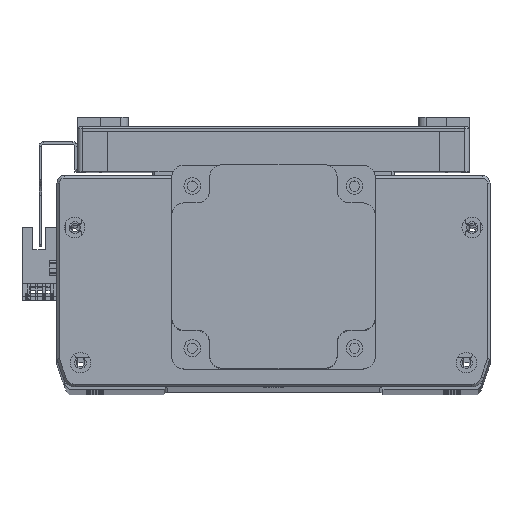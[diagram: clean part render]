
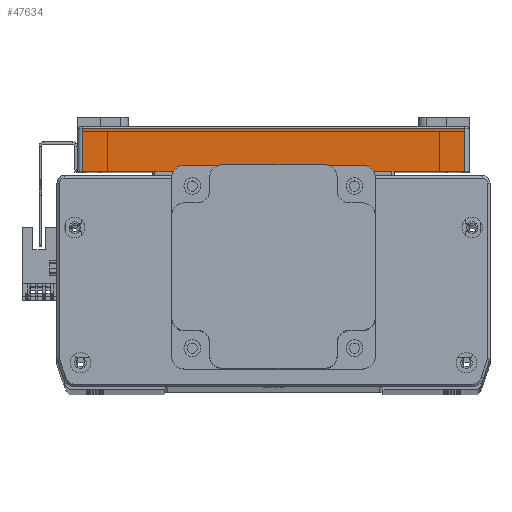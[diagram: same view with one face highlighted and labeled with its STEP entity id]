
A CAD part, top view. The second image highlights one B-rep face of the part: STEP entity #47634.
In plain terms, the highlighted planar face has unit normal (0, 0, 1) as drawn and (-1, 0, 0) by its records, which use the part's own axes.
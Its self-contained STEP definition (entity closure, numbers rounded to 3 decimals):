
#783 = EDGE_LOOP ( 'NONE', ( #21685, #21513, #21555, #21696 ) ) ;
#7737 = FACE_OUTER_BOUND ( 'NONE', #783, .T. ) ;
#19426 = CARTESIAN_POINT ( 'NONE',  ( -115., 17., -75. ) ) ;
#19437 = CARTESIAN_POINT ( 'NONE',  ( -115., 0., 75. ) ) ;
#19445 = CARTESIAN_POINT ( 'NONE',  ( -115., 17., 75. ) ) ;
#19524 = CARTESIAN_POINT ( 'NONE',  ( -115., 0., -75. ) ) ;
#21513 = ORIENTED_EDGE ( 'NONE', *, *, #27332, .T. ) ;
#21555 = ORIENTED_EDGE ( 'NONE', *, *, #27326, .T. ) ;
#21685 = ORIENTED_EDGE ( 'NONE', *, *, #27250, .T. ) ;
#21696 = ORIENTED_EDGE ( 'NONE', *, *, #27246, .T. ) ;
#27246 = EDGE_CURVE ( 'NONE', #32955, #32928, #42793, .T. ) ;
#27250 = EDGE_CURVE ( 'NONE', #32928, #32918, #42791, .T. ) ;
#27326 = EDGE_CURVE ( 'NONE', #32922, #32955, #43102, .T. ) ;
#27332 = EDGE_CURVE ( 'NONE', #32918, #32922, #43219, .T. ) ;
#32918 = VERTEX_POINT ( 'NONE', #19445 ) ;
#32922 = VERTEX_POINT ( 'NONE', #19426 ) ;
#32928 = VERTEX_POINT ( 'NONE', #19437 ) ;
#32955 = VERTEX_POINT ( 'NONE', #19524 ) ;
#37766 = CARTESIAN_POINT ( 'NONE',  ( -115., 18., 75. ) ) ;
#37768 = DIRECTION ( 'NONE',  ( 0., 1., 0. ) ) ;
#37810 = DIRECTION ( 'NONE',  ( 0., 0., 1. ) ) ;
#37830 = CARTESIAN_POINT ( 'NONE',  ( -115., 0., -77. ) ) ;
#38159 = DIRECTION ( 'NONE',  ( 0., 0., -1. ) ) ;
#38189 = DIRECTION ( 'NONE',  ( 0., -1., 0. ) ) ;
#38197 = CARTESIAN_POINT ( 'NONE',  ( -115., 18., -75. ) ) ;
#38229 = CARTESIAN_POINT ( 'NONE',  ( -115., 17., -75. ) ) ;
#41152 = AXIS2_PLACEMENT_3D ( 'NONE', #64043, #64046, #64077 ) ;
#42791 = LINE ( 'NONE', #37766, #42836 ) ;
#42793 = LINE ( 'NONE', #37830, #42842 ) ;
#42836 = VECTOR ( 'NONE', #37768, 1000. ) ;
#42842 = VECTOR ( 'NONE', #37810, 1000. ) ;
#43102 = LINE ( 'NONE', #38197, #43116 ) ;
#43116 = VECTOR ( 'NONE', #38189, 1000. ) ;
#43215 = VECTOR ( 'NONE', #38159, 1000. ) ;
#43219 = LINE ( 'NONE', #38229, #43215 ) ;
#47634 = ADVANCED_FACE ( 'NONE', ( #7737 ), #63993, .F. ) ;
#63993 = PLANE ( 'NONE',  #41152 ) ;
#64043 = CARTESIAN_POINT ( 'NONE',  ( -115., 18., -77. ) ) ;
#64046 = DIRECTION ( 'NONE',  ( 1., 0., 0. ) ) ;
#64077 = DIRECTION ( 'NONE',  ( 0., 0., -1. ) ) ;
